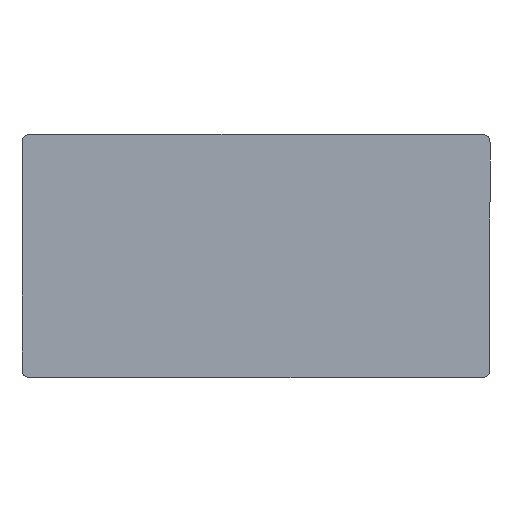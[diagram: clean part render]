
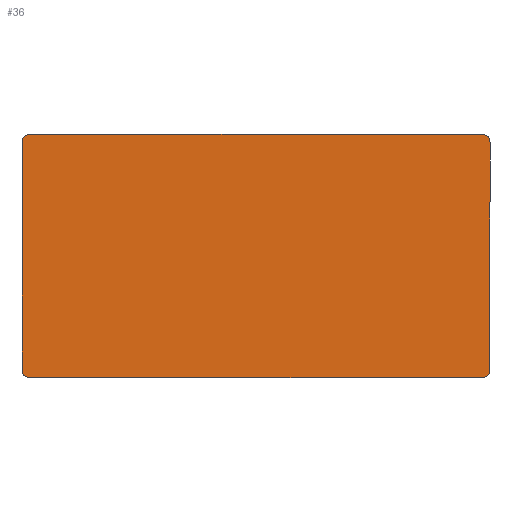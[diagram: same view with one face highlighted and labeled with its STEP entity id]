
A CAD part, top view. The second image highlights one B-rep face of the part: STEP entity #36.
In plain terms, the highlighted planar face has unit normal (0, 0, 1).
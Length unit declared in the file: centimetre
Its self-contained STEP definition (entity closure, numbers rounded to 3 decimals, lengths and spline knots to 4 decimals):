
#36=ADVANCED_FACE($,(#54),#223,.T.);
#54=FACE_OUTER_BOUND($,#72,.T.);
#72=EDGE_LOOP($,(#140,#141));
#140=ORIENTED_EDGE($,*,*,#178,.T.);
#141=ORIENTED_EDGE($,*,*,#181,.T.);
#178=EDGE_CURVE($,#203,#205,#255,.T.);
#181=EDGE_CURVE($,#205,#203,#257,.T.);
#203=VERTEX_POINT($,#783);
#205=VERTEX_POINT($,#785);
#223=PLANE($,#351);
#255=(
BOUNDED_CURVE()
B_SPLINE_CURVE(2,(#715,#716,#717,#718,#719,#720,#721,#722,#723),.UNSPECIFIED.,
.F.,.F.)
B_SPLINE_CURVE_WITH_KNOTS((3,2,2,2,3),(1882.8319,1914.2478,
2524.2478,2555.6637,3765.6637),.UNSPECIFIED.)
CURVE()
GEOMETRIC_REPRESENTATION_ITEM()
RATIONAL_B_SPLINE_CURVE((1.,0.707,1.,1.,1.,0.707,
1.,1.,1.))
REPRESENTATION_ITEM($)
);
#257=(
BOUNDED_CURVE()
B_SPLINE_CURVE(2,(#735,#736,#737,#738,#739,#740,#741,#742,#743),.UNSPECIFIED.,
.F.,.F.)
B_SPLINE_CURVE_WITH_KNOTS((3,2,2,2,3),(3765.6637,3797.0796,
4407.0796,4438.4956,5648.4956),.UNSPECIFIED.)
CURVE()
GEOMETRIC_REPRESENTATION_ITEM()
RATIONAL_B_SPLINE_CURVE((1.,0.707,1.,1.,1.,0.707,
1.,1.,1.))
REPRESENTATION_ITEM($)
);
#351=AXIS2_PLACEMENT_3D($,#763,#360,$);
#360=DIRECTION($,(0.,0.,1.));
#715=CARTESIAN_POINT($,(124.9687,0.1322,31.7));
#716=CARTESIAN_POINT($,(126.9687,0.1322,31.7));
#717=CARTESIAN_POINT($,(126.9687,2.1322,31.7));
#718=CARTESIAN_POINT($,(126.9687,32.6322,31.7));
#719=CARTESIAN_POINT($,(126.9687,63.1322,31.7));
#720=CARTESIAN_POINT($,(126.9687,65.1322,31.7));
#721=CARTESIAN_POINT($,(124.9687,65.1322,31.7));
#722=CARTESIAN_POINT($,(64.4687,65.1322,31.7));
#723=CARTESIAN_POINT($,(3.9687,65.1322,31.7));
#735=CARTESIAN_POINT($,(3.9687,65.1322,31.7));
#736=CARTESIAN_POINT($,(1.9687,65.1322,31.7));
#737=CARTESIAN_POINT($,(1.9687,63.1322,31.7));
#738=CARTESIAN_POINT($,(1.9687,32.6322,31.7));
#739=CARTESIAN_POINT($,(1.9687,2.1322,31.7));
#740=CARTESIAN_POINT($,(1.9687,0.1322,31.7));
#741=CARTESIAN_POINT($,(3.9687,0.1322,31.7));
#742=CARTESIAN_POINT($,(64.4687,0.1322,31.7));
#743=CARTESIAN_POINT($,(124.9687,0.1322,31.7));
#763=CARTESIAN_POINT($,(1.9687,0.1322,31.7));
#783=CARTESIAN_POINT($,(124.9687,0.1322,31.7));
#785=CARTESIAN_POINT($,(3.9687,65.1322,31.7));
